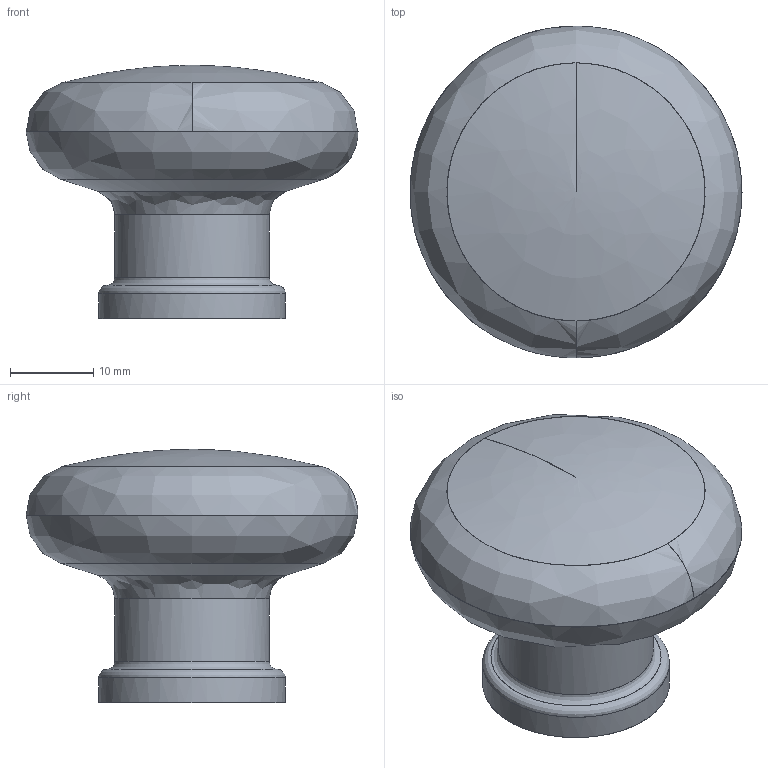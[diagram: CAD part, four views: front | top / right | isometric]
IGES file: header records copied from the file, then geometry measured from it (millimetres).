
Start section: C
Global section: file name: 0385-40.igs; native system: By Siemens PLM Incorporated; preprocessor: XPlus GENERIC/IGES 16.0.42; author: Author; organization: Title; date: 20231211.120848; units: millimetre
Bounding box: 40 x 40 x 30.5 mm (x, y, z)
Surface area: 9495.2 mm2 (no closed solid volume)
Topology: 0 solids, 0 shells, 34 faces, 178 edges, 176 vertices
Faces by surface type: bspline 34
